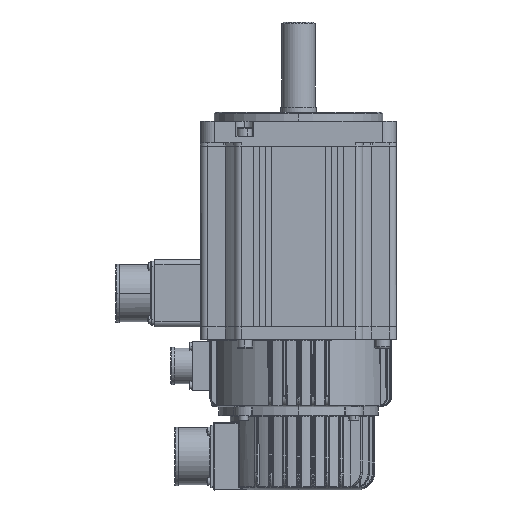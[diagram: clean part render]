
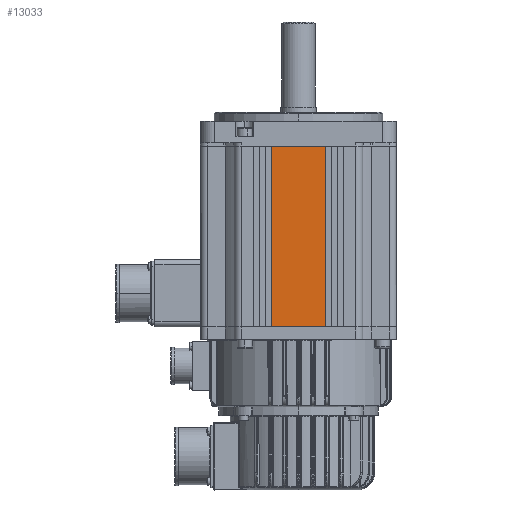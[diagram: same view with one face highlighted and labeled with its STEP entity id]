
A CAD part, left-side view. The second image highlights one B-rep face of the part: STEP entity #13033.
In plain terms, the highlighted planar face has unit normal (-1, 0, -0.001).
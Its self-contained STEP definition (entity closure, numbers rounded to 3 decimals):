
#1843 = DIRECTION ( 'NONE',  ( 1., 0., 0. ) ) ;
#6078 = CARTESIAN_POINT ( 'NONE',  ( -55.25, 15., 102. ) ) ;
#10687 = EDGE_CURVE ( 'NONE', #28500, #13505, #27458, .T. ) ;
#10796 = DIRECTION ( 'NONE',  ( 0., -1., 0. ) ) ;
#13033 = ADVANCED_FACE ( 'NONE', ( #36152 ), #16257, .F. ) ;
#13505 = VERTEX_POINT ( 'NONE', #62677 ) ;
#13774 = EDGE_CURVE ( 'NONE', #13505, #60946, #45419, .T. ) ;
#16257 = PLANE ( 'NONE',  #56700 ) ;
#17278 = LINE ( 'NONE', #36868, #50311 ) ;
#18599 = LINE ( 'NONE', #37228, #19785 ) ;
#19785 = VECTOR ( 'NONE', #32432, 1000. ) ;
#20307 = EDGE_CURVE ( 'NONE', #28500, #53144, #17278, .T. ) ;
#20877 = VECTOR ( 'NONE', #10796, 1000. ) ;
#23476 = EDGE_CURVE ( 'NONE', #53144, #60946, #18599, .T. ) ;
#26896 = CARTESIAN_POINT ( 'NONE',  ( -55.25, -15., 102. ) ) ;
#27458 = LINE ( 'NONE', #6078, #29306 ) ;
#27474 = ORIENTED_EDGE ( 'NONE', *, *, #20307, .F. ) ;
#28500 = VERTEX_POINT ( 'NONE', #44175 ) ;
#29306 = VECTOR ( 'NONE', #51200, 1000. ) ;
#32432 = DIRECTION ( 'NONE',  ( 0., 0., -1. ) ) ;
#36088 = ORIENTED_EDGE ( 'NONE', *, *, #13774, .T. ) ;
#36152 = FACE_OUTER_BOUND ( 'NONE', #52325, .T. ) ;
#36868 = CARTESIAN_POINT ( 'NONE',  ( -55.25, 55.25, 102. ) ) ;
#37228 = CARTESIAN_POINT ( 'NONE',  ( -55.25, -15., 102. ) ) ;
#39805 = ORIENTED_EDGE ( 'NONE', *, *, #10687, .T. ) ;
#39983 = CARTESIAN_POINT ( 'NONE',  ( -55.25, 55.25, 0. ) ) ;
#43769 = CARTESIAN_POINT ( 'NONE',  ( -55.25, -15., 0. ) ) ;
#44175 = CARTESIAN_POINT ( 'NONE',  ( -55.25, 15., 102. ) ) ;
#45419 = LINE ( 'NONE', #39983, #20877 ) ;
#45787 = CARTESIAN_POINT ( 'NONE',  ( -55.25, 55.25, 102. ) ) ;
#46080 = ORIENTED_EDGE ( 'NONE', *, *, #23476, .F. ) ;
#50311 = VECTOR ( 'NONE', #56437, 1000. ) ;
#51200 = DIRECTION ( 'NONE',  ( 0., 0., -1. ) ) ;
#52325 = EDGE_LOOP ( 'NONE', ( #27474, #39805, #36088, #46080 ) ) ;
#53144 = VERTEX_POINT ( 'NONE', #26896 ) ;
#55724 = DIRECTION ( 'NONE',  ( 0., 1., 0. ) ) ;
#56437 = DIRECTION ( 'NONE',  ( 0., -1., 0. ) ) ;
#56700 = AXIS2_PLACEMENT_3D ( 'NONE', #45787, #1843, #55724 ) ;
#60946 = VERTEX_POINT ( 'NONE', #43769 ) ;
#62677 = CARTESIAN_POINT ( 'NONE',  ( -55.25, 15., 0. ) ) ;
